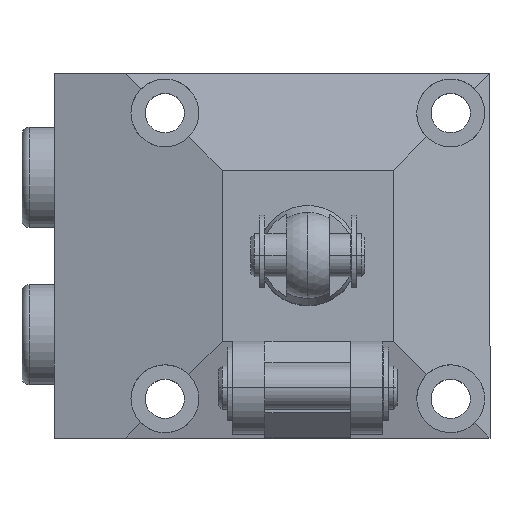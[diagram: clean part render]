
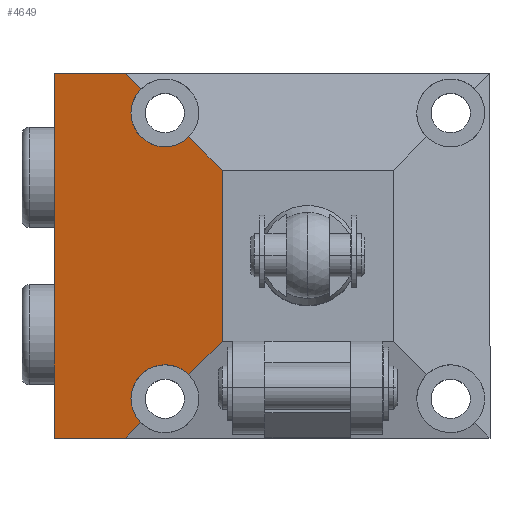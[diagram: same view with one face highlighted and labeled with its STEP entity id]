
A CAD part, top view. The second image highlights one B-rep face of the part: STEP entity #4649.
In plain terms, the highlighted planar face has unit normal (-0.259, 0, 0.966).
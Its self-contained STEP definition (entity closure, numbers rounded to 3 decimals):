
#145 = CARTESIAN_POINT ( 'NONE',  ( -24.75, 15.028, 58.584 ) ) ;
#146 = VERTEX_POINT ( 'NONE', #1572 ) ;
#156 = VECTOR ( 'NONE', #1070, 1000. ) ;
#342 = LINE ( 'NONE', #3030, #6090 ) ;
#488 = DIRECTION ( 'NONE',  ( 0.966, 0., 0.259 ) ) ;
#703 = DIRECTION ( 'NONE',  ( -0.966, 0., -0.259 ) ) ;
#854 = CARTESIAN_POINT ( 'NONE',  ( 6.101, 6.101, 66.85 ) ) ;
#858 = LINE ( 'NONE', #4278, #3658 ) ;
#879 = CARTESIAN_POINT ( 'NONE',  ( -23.359, 23.359, 58.956 ) ) ;
#948 = DIRECTION ( 'NONE',  ( 0.695, 0.695, 0.186 ) ) ;
#966 = CARTESIAN_POINT ( 'NONE',  ( -24.75, 20., 58.584 ) ) ;
#1041 = EDGE_CURVE ( 'NONE', #5229, #1276, #1331, .T. ) ;
#1057 = CARTESIAN_POINT ( 'NONE',  ( -12., -25.5, 62. ) ) ;
#1070 = DIRECTION ( 'NONE',  ( 0.695, -0.695, 0.186 ) ) ;
#1093 =( BOUNDED_CURVE ( )  B_SPLINE_CURVE ( 3, ( #6812, #2378, #145, #4052 ),
 .UNSPECIFIED., .F., .T. ) 
 B_SPLINE_CURVE_WITH_KNOTS ( ( 4, 4 ),
 ( 0.785, 3.142 ),
 .UNSPECIFIED. ) 
 CURVE ( )  GEOMETRIC_REPRESENTATION_ITEM ( )  RATIONAL_B_SPLINE_CURVE ( ( 1., 0.588, 0.588, 1. ) ) 
 REPRESENTATION_ITEM ( '' )  );
#1188 = LINE ( 'NONE', #854, #6914 ) ;
#1276 = VERTEX_POINT ( 'NONE', #2266 ) ;
#1279 = VERTEX_POINT ( 'NONE', #1850 ) ;
#1313 = DIRECTION ( 'NONE',  ( -0.966, 0., -0.259 ) ) ;
#1331 = LINE ( 'NONE', #1057, #5586 ) ;
#1493 = VERTEX_POINT ( 'NONE', #7200 ) ;
#1572 = CARTESIAN_POINT ( 'NONE',  ( -23.359, 23.359, 58.956 ) ) ;
#1640 =( BOUNDED_CURVE ( )  B_SPLINE_CURVE ( 3, ( #4759, #6975, #4223, #879 ),
 .UNSPECIFIED., .F., .F. ) 
 B_SPLINE_CURVE_WITH_KNOTS ( ( 4, 4 ),
 ( 3.142, 3.927 ),
 .UNSPECIFIED. ) 
 CURVE ( )  GEOMETRIC_REPRESENTATION_ITEM ( )  RATIONAL_B_SPLINE_CURVE ( ( 1., 0.949, 0.949, 1. ) ) 
 REPRESENTATION_ITEM ( '' )  );
#1661 = CARTESIAN_POINT ( 'NONE',  ( -24.75, -20., 58.584 ) ) ;
#1693 = CARTESIAN_POINT ( 'NONE',  ( -12., -12., 62. ) ) ;
#1747 = CARTESIAN_POINT ( 'NONE',  ( -35.5, 25.501, 55.703 ) ) ;
#1850 = CARTESIAN_POINT ( 'NONE',  ( -24.75, -20., 58.584 ) ) ;
#1887 = VERTEX_POINT ( 'NONE', #3680 ) ;
#1938 = DIRECTION ( 'NONE',  ( 0., -1., 0. ) ) ;
#1957 = CARTESIAN_POINT ( 'NONE',  ( -16.641, -16.641, 60.756 ) ) ;
#2087 = EDGE_CURVE ( 'NONE', #1887, #146, #4789, .T. ) ;
#2137 = ORIENTED_EDGE ( 'NONE', *, *, #5903, .T. ) ;
#2163 = EDGE_CURVE ( 'NONE', #3459, #7000, #3138, .T. ) ;
#2212 = VERTEX_POINT ( 'NONE', #1693 ) ;
#2266 = CARTESIAN_POINT ( 'NONE',  ( -25.5, -25.5, 58.383 ) ) ;
#2288 = EDGE_CURVE ( 'NONE', #4737, #5229, #2437, .T. ) ;
#2378 = CARTESIAN_POINT ( 'NONE',  ( -20.157, 13.126, 59.814 ) ) ;
#2387 = CARTESIAN_POINT ( 'NONE',  ( -12., 12., 62. ) ) ;
#2437 = LINE ( 'NONE', #1747, #5216 ) ;
#2474 = ORIENTED_EDGE ( 'NONE', *, *, #2163, .F. ) ;
#2512 = ORIENTED_EDGE ( 'NONE', *, *, #6070, .F. ) ;
#2589 = EDGE_LOOP ( 'NONE', ( #4440, #3620, #3562, #6423, #4392, #2512, #2474, #2137, #5646, #4813, #5822, #6643 ) ) ;
#2632 = CARTESIAN_POINT ( 'NONE',  ( -20.157, -13.126, 59.814 ) ) ;
#2674 = EDGE_CURVE ( 'NONE', #1279, #2847, #3473, .T. ) ;
#2847 = VERTEX_POINT ( 'NONE', #1957 ) ;
#2859 = DIRECTION ( 'NONE',  ( 0., -1., 0. ) ) ;
#2993 = CARTESIAN_POINT ( 'NONE',  ( -12., 25.5, 62. ) ) ;
#3030 = CARTESIAN_POINT ( 'NONE',  ( -12., 25.501, 62. ) ) ;
#3038 = CARTESIAN_POINT ( 'NONE',  ( -16.641, 16.641, 60.756 ) ) ;
#3138 = LINE ( 'NONE', #4399, #156 ) ;
#3244 = AXIS2_PLACEMENT_3D ( 'NONE', #5698, #4048, #703 ) ;
#3315 = CARTESIAN_POINT ( 'NONE',  ( -23.359, -23.359, 58.956 ) ) ;
#3459 = VERTEX_POINT ( 'NONE', #3038 ) ;
#3473 =( BOUNDED_CURVE ( )  B_SPLINE_CURVE ( 3, ( #5390, #5954, #2632, #6513 ),
 .UNSPECIFIED., .F., .F. ) 
 B_SPLINE_CURVE_WITH_KNOTS ( ( 4, 4 ),
 ( 3.142, 5.498 ),
 .UNSPECIFIED. ) 
 CURVE ( )  GEOMETRIC_REPRESENTATION_ITEM ( )  RATIONAL_B_SPLINE_CURVE ( ( 1., 0.588, 0.588, 1. ) ) 
 REPRESENTATION_ITEM ( '' )  );
#3562 = ORIENTED_EDGE ( 'NONE', *, *, #6685, .T. ) ;
#3620 = ORIENTED_EDGE ( 'NONE', *, *, #4063, .T. ) ;
#3623 = FACE_OUTER_BOUND ( 'NONE', #2589, .T. ) ;
#3653 = LINE ( 'NONE', #2993, #6426 ) ;
#3658 = VECTOR ( 'NONE', #948, 1000. ) ;
#3680 = CARTESIAN_POINT ( 'NONE',  ( -25.5, 25.5, 58.383 ) ) ;
#4048 = DIRECTION ( 'NONE',  ( 0.259, 0., -0.966 ) ) ;
#4052 = CARTESIAN_POINT ( 'NONE',  ( -24.75, 20., 58.584 ) ) ;
#4063 = EDGE_CURVE ( 'NONE', #1276, #1493, #1188, .T. ) ;
#4074 = EDGE_CURVE ( 'NONE', #4290, #146, #1640, .T. ) ;
#4193 = DIRECTION ( 'NONE',  ( 0.695, 0.695, 0.186 ) ) ;
#4223 = CARTESIAN_POINT ( 'NONE',  ( -24.261, 22.456, 58.715 ) ) ;
#4278 = CARTESIAN_POINT ( 'NONE',  ( 6.101, 6.101, 66.85 ) ) ;
#4290 = VERTEX_POINT ( 'NONE', #966 ) ;
#4373 = DIRECTION ( 'NONE',  ( 0.695, -0.695, 0.186 ) ) ;
#4392 = ORIENTED_EDGE ( 'NONE', *, *, #6528, .T. ) ;
#4399 = CARTESIAN_POINT ( 'NONE',  ( -25.515, 25.515, 58.379 ) ) ;
#4440 = ORIENTED_EDGE ( 'NONE', *, *, #1041, .T. ) ;
#4581 = PLANE ( 'NONE',  #3244 ) ;
#4649 = ADVANCED_FACE ( 'NONE', ( #3623 ), #4581, .F. ) ;
#4737 = VERTEX_POINT ( 'NONE', #5239 ) ;
#4759 = CARTESIAN_POINT ( 'NONE',  ( -24.75, 20., 58.584 ) ) ;
#4789 = LINE ( 'NONE', #7137, #6083 ) ;
#4813 = ORIENTED_EDGE ( 'NONE', *, *, #2087, .F. ) ;
#4986 = CARTESIAN_POINT ( 'NONE',  ( -24.75, -21.277, 58.584 ) ) ;
#5216 = VECTOR ( 'NONE', #2859, 1000. ) ;
#5229 = VERTEX_POINT ( 'NONE', #5849 ) ;
#5239 = CARTESIAN_POINT ( 'NONE',  ( -35.5, 25.5, 55.703 ) ) ;
#5390 = CARTESIAN_POINT ( 'NONE',  ( -24.75, -20., 58.584 ) ) ;
#5586 = VECTOR ( 'NONE', #488, 1000. ) ;
#5646 = ORIENTED_EDGE ( 'NONE', *, *, #4074, .T. ) ;
#5698 = CARTESIAN_POINT ( 'NONE',  ( -12., 25.501, 62. ) ) ;
#5822 = ORIENTED_EDGE ( 'NONE', *, *, #7057, .T. ) ;
#5849 = CARTESIAN_POINT ( 'NONE',  ( -35.5, -25.5, 55.703 ) ) ;
#5903 = EDGE_CURVE ( 'NONE', #3459, #4290, #1093, .T. ) ;
#5954 = CARTESIAN_POINT ( 'NONE',  ( -24.75, -15.028, 58.584 ) ) ;
#6070 = EDGE_CURVE ( 'NONE', #7000, #2212, #342, .T. ) ;
#6083 = VECTOR ( 'NONE', #4373, 1000. ) ;
#6090 = VECTOR ( 'NONE', #1938, 1000. ) ;
#6423 = ORIENTED_EDGE ( 'NONE', *, *, #2674, .T. ) ;
#6426 = VECTOR ( 'NONE', #1313, 1000. ) ;
#6513 = CARTESIAN_POINT ( 'NONE',  ( -16.641, -16.641, 60.756 ) ) ;
#6528 = EDGE_CURVE ( 'NONE', #2847, #2212, #858, .T. ) ;
#6643 = ORIENTED_EDGE ( 'NONE', *, *, #2288, .T. ) ;
#6685 = EDGE_CURVE ( 'NONE', #1493, #1279, #7015, .T. ) ;
#6812 = CARTESIAN_POINT ( 'NONE',  ( -16.641, 16.641, 60.756 ) ) ;
#6914 = VECTOR ( 'NONE', #4193, 1000. ) ;
#6975 = CARTESIAN_POINT ( 'NONE',  ( -24.75, 21.277, 58.584 ) ) ;
#7000 = VERTEX_POINT ( 'NONE', #2387 ) ;
#7015 =( BOUNDED_CURVE ( )  B_SPLINE_CURVE ( 3, ( #3315, #7185, #4986, #1661 ),
 .UNSPECIFIED., .F., .T. ) 
 B_SPLINE_CURVE_WITH_KNOTS ( ( 4, 4 ),
 ( 2.356, 3.142 ),
 .UNSPECIFIED. ) 
 CURVE ( )  GEOMETRIC_REPRESENTATION_ITEM ( )  RATIONAL_B_SPLINE_CURVE ( ( 1., 0.949, 0.949, 1. ) ) 
 REPRESENTATION_ITEM ( '' )  );
#7057 = EDGE_CURVE ( 'NONE', #1887, #4737, #3653, .T. ) ;
#7137 = CARTESIAN_POINT ( 'NONE',  ( -25.515, 25.515, 58.379 ) ) ;
#7185 = CARTESIAN_POINT ( 'NONE',  ( -24.261, -22.456, 58.715 ) ) ;
#7200 = CARTESIAN_POINT ( 'NONE',  ( -23.359, -23.359, 58.956 ) ) ;
